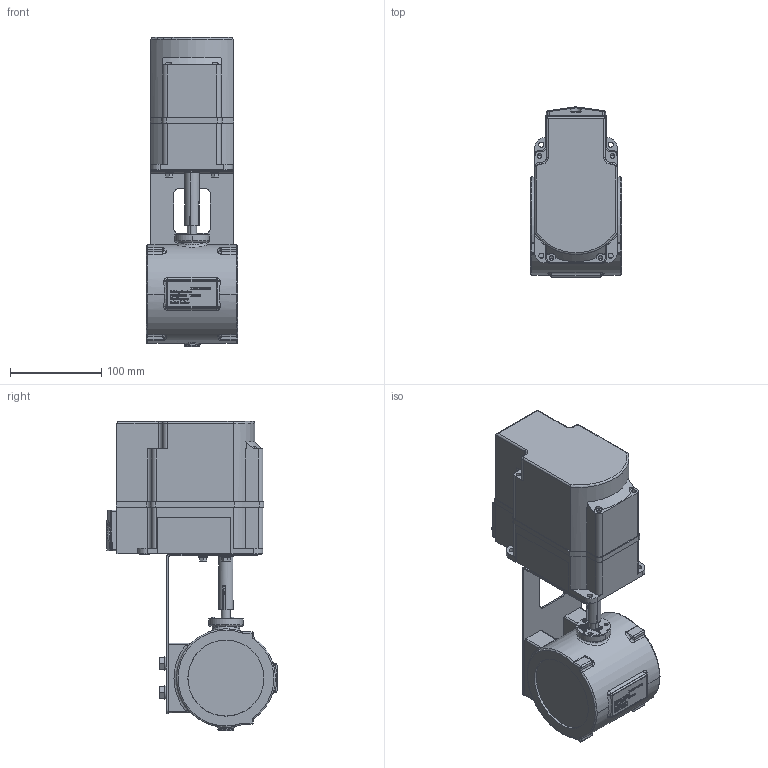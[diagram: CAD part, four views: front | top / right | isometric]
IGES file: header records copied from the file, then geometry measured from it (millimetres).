
Global section: file name: No Iges File Name specified; native system: AutoDesk Inventor R12.0; preprocessor: AutoDesk Inventor Iges Exporter R12.0; date: 20110328.095710; units: millimetre
Bounding box: 100 x 186.55 x 339 mm (x, y, z)
Volume: 2851842.1 mm3; surface area: 225819.6 mm2
Topology: 1 solids, 17 shells, 2923 faces, 7817 edges, 5078 vertices
Faces by surface type: plane 1514, bspline 1011, cylinder 191, revolution 103, cone 67, torus 23, sphere 14
Full cylindrical faces by diameter (mm): 9.2 x3, 14.8 x4
